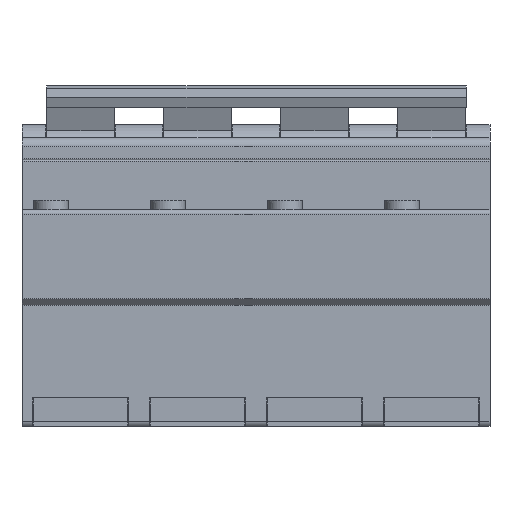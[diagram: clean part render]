
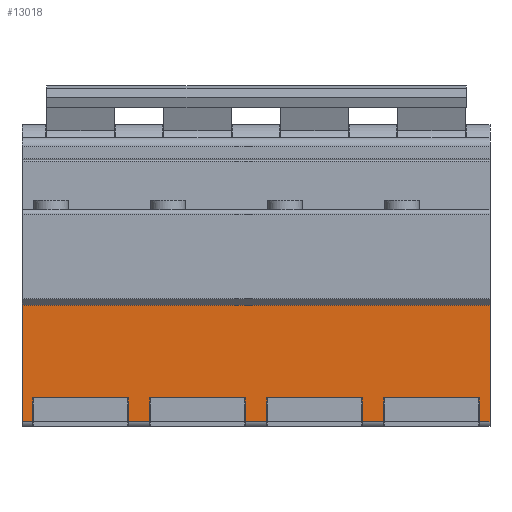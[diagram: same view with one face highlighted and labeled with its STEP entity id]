
A CAD part, front view. The second image highlights one B-rep face of the part: STEP entity #13018.
In plain terms, the highlighted planar face has unit normal (0, -1, 0).
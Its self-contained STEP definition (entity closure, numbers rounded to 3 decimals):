
#1306=FACE_OUTER_BOUND('',#2207,.T.);
#2207=EDGE_LOOP('',(#10402,#10403,#10404,#10405,#10406,#10407,#10408,#10409,
#10410,#10411,#10412,#10413,#10414,#10415,#10416,#10417,#10418,#10419,#10420,
#10421));
#2965=LINE('',#19849,#4207);
#2974=LINE('',#19887,#4216);
#2979=LINE('',#19900,#4221);
#2985=LINE('',#19912,#4227);
#3051=LINE('',#20498,#4293);
#3056=LINE('',#20511,#4298);
#3062=LINE('',#20523,#4304);
#3128=LINE('',#21109,#4370);
#3133=LINE('',#21122,#4375);
#3139=LINE('',#21134,#4381);
#3205=LINE('',#21720,#4447);
#3210=LINE('',#21733,#4452);
#3215=LINE('',#21744,#4457);
#3216=LINE('',#21745,#4458);
#3217=LINE('',#21746,#4459);
#3218=LINE('',#21747,#4460);
#3219=LINE('',#21748,#4461);
#3220=LINE('',#21750,#4462);
#3221=LINE('',#21752,#4463);
#3222=LINE('',#21753,#4464);
#4207=VECTOR('',#15121,10.);
#4216=VECTOR('',#15154,10.);
#4221=VECTOR('',#15163,10.);
#4227=VECTOR('',#15173,10.);
#4293=VECTOR('',#15549,10.);
#4298=VECTOR('',#15558,10.);
#4304=VECTOR('',#15568,10.);
#4370=VECTOR('',#15944,10.);
#4375=VECTOR('',#15953,10.);
#4381=VECTOR('',#15963,10.);
#4447=VECTOR('',#16339,10.);
#4452=VECTOR('',#16348,10.);
#4457=VECTOR('',#16357,10.);
#4458=VECTOR('',#16358,10.);
#4459=VECTOR('',#16359,10.);
#4460=VECTOR('',#16360,10.);
#4461=VECTOR('',#16361,10.);
#4462=VECTOR('',#16362,10.);
#4463=VECTOR('',#16363,10.);
#4464=VECTOR('',#16364,10.);
#5674=VERTEX_POINT('',#19846);
#5675=VERTEX_POINT('',#19848);
#5691=VERTEX_POINT('',#19885);
#5692=VERTEX_POINT('',#19886);
#5697=VERTEX_POINT('',#19898);
#5698=VERTEX_POINT('',#19899);
#5814=VERTEX_POINT('',#20496);
#5815=VERTEX_POINT('',#20497);
#5820=VERTEX_POINT('',#20509);
#5821=VERTEX_POINT('',#20510);
#5937=VERTEX_POINT('',#21107);
#5938=VERTEX_POINT('',#21108);
#5943=VERTEX_POINT('',#21120);
#5944=VERTEX_POINT('',#21121);
#6060=VERTEX_POINT('',#21718);
#6061=VERTEX_POINT('',#21719);
#6066=VERTEX_POINT('',#21731);
#6067=VERTEX_POINT('',#21732);
#6072=VERTEX_POINT('',#21749);
#6073=VERTEX_POINT('',#21751);
#7077=EDGE_CURVE('',#5674,#5675,#2965,.T.);
#7094=EDGE_CURVE('',#5691,#5692,#2974,.T.);
#7100=EDGE_CURVE('',#5697,#5698,#2979,.T.);
#7107=EDGE_CURVE('',#5692,#5675,#2985,.T.);
#7270=EDGE_CURVE('',#5814,#5815,#3051,.T.);
#7276=EDGE_CURVE('',#5820,#5821,#3056,.T.);
#7283=EDGE_CURVE('',#5815,#5697,#3062,.T.);
#7446=EDGE_CURVE('',#5937,#5938,#3128,.T.);
#7452=EDGE_CURVE('',#5943,#5944,#3133,.T.);
#7459=EDGE_CURVE('',#5938,#5820,#3139,.T.);
#7622=EDGE_CURVE('',#6060,#6061,#3205,.T.);
#7628=EDGE_CURVE('',#6066,#6067,#3210,.T.);
#7634=EDGE_CURVE('',#6067,#6060,#3215,.T.);
#7635=EDGE_CURVE('',#6061,#5943,#3216,.T.);
#7636=EDGE_CURVE('',#5944,#5937,#3217,.T.);
#7637=EDGE_CURVE('',#5821,#5814,#3218,.T.);
#7638=EDGE_CURVE('',#5698,#5691,#3219,.T.);
#7639=EDGE_CURVE('',#6072,#5674,#3220,.T.);
#7640=EDGE_CURVE('',#6072,#6073,#3221,.T.);
#7641=EDGE_CURVE('',#6073,#6066,#3222,.T.);
#10402=ORIENTED_EDGE('',*,*,#7628,.T.);
#10403=ORIENTED_EDGE('',*,*,#7634,.T.);
#10404=ORIENTED_EDGE('',*,*,#7622,.T.);
#10405=ORIENTED_EDGE('',*,*,#7635,.T.);
#10406=ORIENTED_EDGE('',*,*,#7452,.T.);
#10407=ORIENTED_EDGE('',*,*,#7636,.T.);
#10408=ORIENTED_EDGE('',*,*,#7446,.T.);
#10409=ORIENTED_EDGE('',*,*,#7459,.T.);
#10410=ORIENTED_EDGE('',*,*,#7276,.T.);
#10411=ORIENTED_EDGE('',*,*,#7637,.T.);
#10412=ORIENTED_EDGE('',*,*,#7270,.T.);
#10413=ORIENTED_EDGE('',*,*,#7283,.T.);
#10414=ORIENTED_EDGE('',*,*,#7100,.T.);
#10415=ORIENTED_EDGE('',*,*,#7638,.T.);
#10416=ORIENTED_EDGE('',*,*,#7094,.T.);
#10417=ORIENTED_EDGE('',*,*,#7107,.T.);
#10418=ORIENTED_EDGE('',*,*,#7077,.F.);
#10419=ORIENTED_EDGE('',*,*,#7639,.F.);
#10420=ORIENTED_EDGE('',*,*,#7640,.T.);
#10421=ORIENTED_EDGE('',*,*,#7641,.T.);
#12308=PLANE('',#14015);
#13018=ADVANCED_FACE('',(#1306),#12308,.T.);
#14015=AXIS2_PLACEMENT_3D('',#21743,#16355,#16356);
#15121=DIRECTION('',(0.,0.,-1.));
#15154=DIRECTION('',(0.,0.,-1.));
#15163=DIRECTION('',(0.,0.,1.));
#15173=DIRECTION('',(1.,0.,0.));
#15549=DIRECTION('',(0.,0.,-1.));
#15558=DIRECTION('',(0.,0.,1.));
#15568=DIRECTION('',(1.,0.,0.));
#15944=DIRECTION('',(0.,0.,-1.));
#15953=DIRECTION('',(0.,0.,1.));
#15963=DIRECTION('',(1.,0.,0.));
#16339=DIRECTION('',(0.,0.,-1.));
#16348=DIRECTION('',(0.,0.,1.));
#16355=DIRECTION('center_axis',(0.,-1.,0.));
#16356=DIRECTION('ref_axis',(0.,0.,-1.));
#16357=DIRECTION('',(1.,0.,0.));
#16358=DIRECTION('',(1.,0.,0.));
#16359=DIRECTION('',(1.,0.,0.));
#16360=DIRECTION('',(1.,0.,0.));
#16361=DIRECTION('',(1.,0.,0.));
#16362=DIRECTION('',(1.,0.,0.));
#16363=DIRECTION('',(0.,0.,-1.));
#16364=DIRECTION('',(1.,0.,0.));
#19846=CARTESIAN_POINT('',(108.,-24.356,-37.778));
#19848=CARTESIAN_POINT('',(108.,-24.356,-64.693));
#19849=CARTESIAN_POINT('',(108.,-24.356,-37.778));
#19885=CARTESIAN_POINT('',(105.5,-24.356,-59.196));
#19886=CARTESIAN_POINT('',(105.5,-24.356,-64.693));
#19887=CARTESIAN_POINT('',(105.5,-24.356,-50.008));
#19898=CARTESIAN_POINT('',(83.5,-24.356,-64.693));
#19899=CARTESIAN_POINT('',(83.5,-24.356,-59.196));
#19900=CARTESIAN_POINT('',(83.5,-24.356,-50.008));
#19912=CARTESIAN_POINT('',(81.,-24.356,-64.693));
#20496=CARTESIAN_POINT('',(78.5,-24.356,-59.196));
#20497=CARTESIAN_POINT('',(78.5,-24.356,-64.693));
#20498=CARTESIAN_POINT('',(78.5,-24.356,-50.008));
#20509=CARTESIAN_POINT('',(56.5,-24.356,-64.693));
#20510=CARTESIAN_POINT('',(56.5,-24.356,-59.196));
#20511=CARTESIAN_POINT('',(56.5,-24.356,-50.008));
#20523=CARTESIAN_POINT('',(54.,-24.356,-64.693));
#21107=CARTESIAN_POINT('',(51.5,-24.356,-59.196));
#21108=CARTESIAN_POINT('',(51.5,-24.356,-64.693));
#21109=CARTESIAN_POINT('',(51.5,-24.356,-50.008));
#21120=CARTESIAN_POINT('',(29.5,-24.356,-64.693));
#21121=CARTESIAN_POINT('',(29.5,-24.356,-59.196));
#21122=CARTESIAN_POINT('',(29.5,-24.356,-50.008));
#21134=CARTESIAN_POINT('',(27.,-24.356,-64.693));
#21718=CARTESIAN_POINT('',(24.5,-24.356,-59.196));
#21719=CARTESIAN_POINT('',(24.5,-24.356,-64.693));
#21720=CARTESIAN_POINT('',(24.5,-24.356,-50.008));
#21731=CARTESIAN_POINT('',(2.5,-24.356,-64.693));
#21732=CARTESIAN_POINT('',(2.5,-24.356,-59.196));
#21733=CARTESIAN_POINT('',(2.5,-24.356,-50.008));
#21743=CARTESIAN_POINT('Origin',(0.,-24.356,-37.778));
#21744=CARTESIAN_POINT('',(6.75,-24.356,-59.196));
#21745=CARTESIAN_POINT('',(0.,-24.356,-64.693));
#21746=CARTESIAN_POINT('',(33.75,-24.356,-59.196));
#21747=CARTESIAN_POINT('',(60.75,-24.356,-59.196));
#21748=CARTESIAN_POINT('',(87.75,-24.356,-59.196));
#21749=CARTESIAN_POINT('',(0.,-24.356,-37.778));
#21750=CARTESIAN_POINT('',(0.,-24.356,-37.778));
#21751=CARTESIAN_POINT('',(0.,-24.356,-64.693));
#21752=CARTESIAN_POINT('',(0.,-24.356,-37.778));
#21753=CARTESIAN_POINT('',(0.,-24.356,-64.693));
